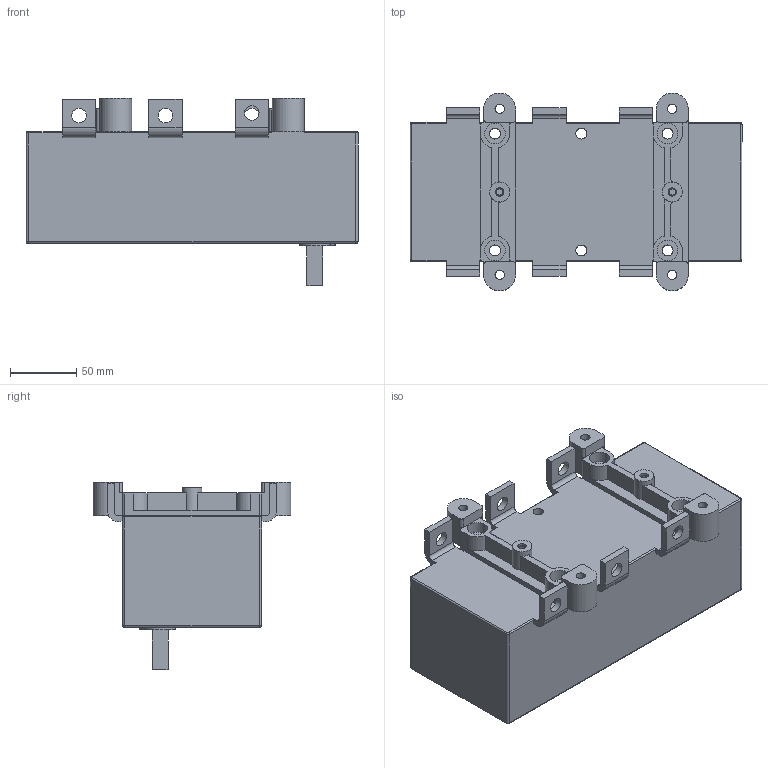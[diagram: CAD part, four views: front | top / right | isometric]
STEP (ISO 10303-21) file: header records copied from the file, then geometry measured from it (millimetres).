
FILE_DESCRIPTION(/* description */ (''),/* implementation_level */ '2;1');
FILE_NAME(/* name */ 'RA630 P3 C.stp',/* time_stamp */ '2021-08-19T08:51:23+02:00',/* author */ (''),/* organization */ (''),/* preprocessor_version */ 'ST-DEVELOPER v18.1',/* originating_system */ 'SIEMENS PLM Software NX 1965',/* authorisation */ '');
FILE_SCHEMA (('AUTOMOTIVE_DESIGN { 1 0 10303 214 3 1 1 1 }'));
Length unit declared in the file: millimetre
Products named in the file (1): RA630 P3 C_stp
Bounding box: 250 x 149 x 141 mm (x, y, z)
Volume: 2284874.1 mm3; surface area: 162543.3 mm2
Topology: 1 solids, 1 shells, 208 faces, 558 edges, 366 vertices
Faces by surface type: plane 102, cylinder 98, torus 5, bspline 3
Full cylindrical faces by diameter (mm): 4.8 x2, 6.2 x2, 7 x4, 8.2 x6, 11 x6, 14 x4, 15 x2, 15.5 x4
Entity records: 6501 total; most frequent: CARTESIAN_POINT 1162, DIRECTION 1144, ORIENTED_EDGE 1048, EDGE_CURVE 524, AXIS2_PLACEMENT_3D 416, VERTEX_POINT 362, LINE 312, VECTOR 312
